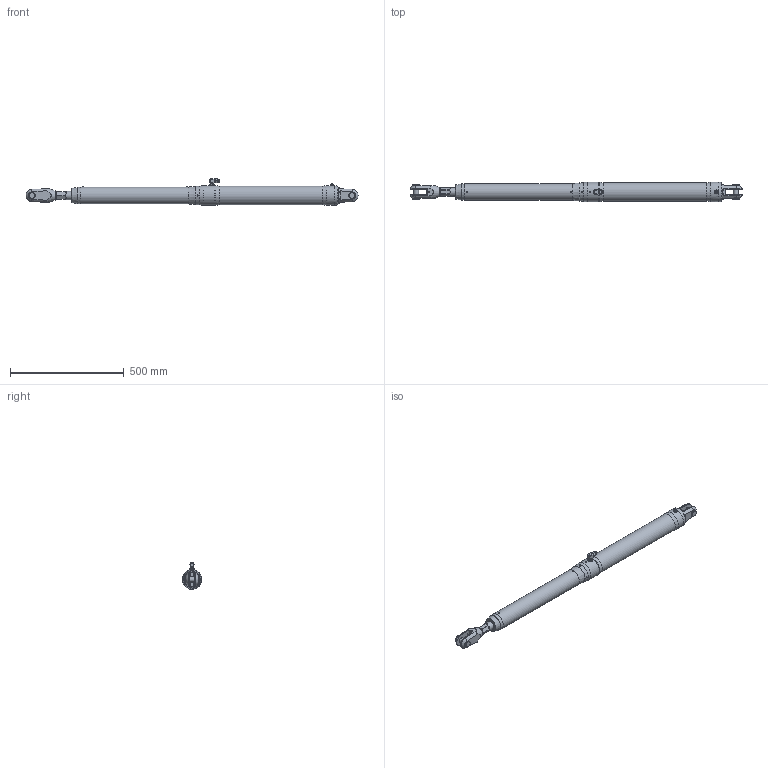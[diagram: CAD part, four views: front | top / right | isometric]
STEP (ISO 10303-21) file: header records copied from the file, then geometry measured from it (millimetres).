
FILE_DESCRIPTION(/* description */ (''),/* implementation_level */ '2;1');
FILE_NAME(/* name */ 'Q:\AA BRAND HYDRAULICS\HYDRAULICS FAMILY DIRECTORY\HYDRAULICS\CYLINDERS\MECHANICAL LOCK RAMS\ALUMINIUM - STAINLESS SINGLE ACTING (-0012 To -0150)\MSA-0030-S0450-NP-71\MSA-0030-S0450-NP-71 (Closed).stp',/* time_stamp */ '2018-04-25T15:54:49+01:00',/* author */ ('Lorena'),/* organization */ (''),/* preprocessor_version */ 'ST-DEVELOPER v17',/* originating_system */ 'Autodesk Inventor 2018',/* authorisation */ '');
FILE_SCHEMA (('AUTOMOTIVE_DESIGN { 1 0 10303 214 3 1 1 }'));
Length unit declared in the file: millimetre
Products named in the file (1): MSA-0030-S0450-NP-71 (Closed)
Bounding box: 1457.16 x 85.6 x 116.4 mm (x, y, z)
Volume: 6210129.8 mm3; surface area: 372793.6 mm2
Topology: 2 solids, 4 shells, 497 faces, 1299 edges, 845 vertices
Faces by surface type: plane 281, cone 125, cylinder 77, torus 6, sphere 4, bspline 4
Full cylindrical faces by diameter (mm): 4 x1, 4.134 x1, 4.2 x2, 4.4 x1, 5 x7, 5.1 x1, 7 x1, 9 x1, 10 x2, 11.11 x1, 11.157 x1, 11.5 x1, 11.8 x1, 12 x1, 12.157 x1, 13 x1, 13.157 x2, 14.5 x2, 16 x2, 18.3 x3, 22 x1, 22.23 x2, 23.5 x1, 27.788 x2, 36 x2, 37 x2, 40 x1, 74 x1, 82.6 x1, 85.6 x4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
Entity records: 16791 total; most frequent: CARTESIAN_POINT 4201, ORIENTED_EDGE 2578, DIRECTION 2514, EDGE_CURVE 1289, AXIS2_PLACEMENT_3D 968, VERTEX_POINT 845, LINE 578, VECTOR 578
